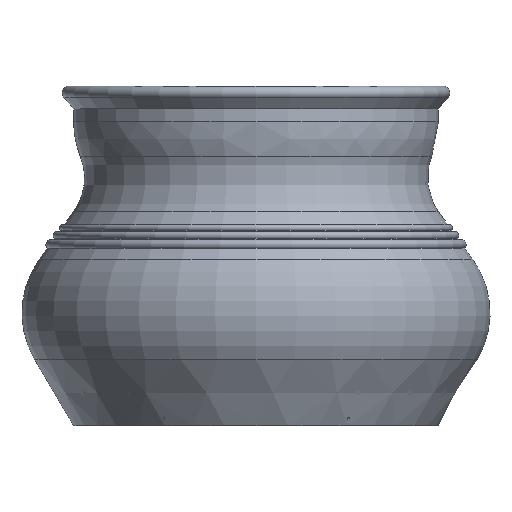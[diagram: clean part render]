
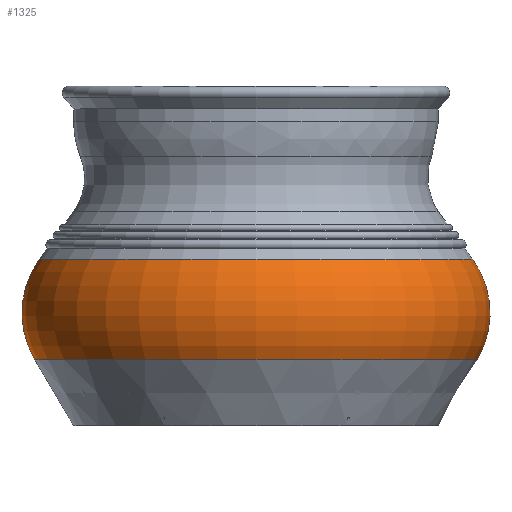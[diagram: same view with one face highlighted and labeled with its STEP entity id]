
A CAD part, front view. The second image highlights one B-rep face of the part: STEP entity #1325.
In plain terms, the highlighted toroidal (fillet/blend) face has major radius 104.833 mm and minor radius 67.527 mm.
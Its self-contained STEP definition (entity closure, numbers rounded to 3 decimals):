
#22=TOROIDAL_SURFACE('',#1503,104.833,67.527);
#166=FACE_OUTER_BOUND('',#284,.T.);
#284=EDGE_LOOP('',(#1208,#1209,#1210,#1211));
#526=CIRCLE('',#1467,163.04);
#549=CIRCLE('',#1504,159.602);
#550=CIRCLE('',#1505,67.527);
#653=VERTEX_POINT('',#2234);
#669=VERTEX_POINT('',#2349);
#818=EDGE_CURVE('',#653,#653,#526,.T.);
#849=EDGE_CURVE('',#669,#669,#549,.T.);
#850=EDGE_CURVE('',#669,#653,#550,.T.);
#1208=ORIENTED_EDGE('',*,*,#849,.F.);
#1209=ORIENTED_EDGE('',*,*,#850,.T.);
#1210=ORIENTED_EDGE('',*,*,#818,.T.);
#1211=ORIENTED_EDGE('',*,*,#850,.F.);
#1325=ADVANCED_FACE('',(#166),#22,.T.);
#1467=AXIS2_PLACEMENT_3D('',#2235,#1835,#1836);
#1503=AXIS2_PLACEMENT_3D('',#2348,#1915,#1916);
#1504=AXIS2_PLACEMENT_3D('',#2350,#1917,#1918);
#1505=AXIS2_PLACEMENT_3D('',#2351,#1919,#1920);
#1835=DIRECTION('center_axis',(0.,0.,1.));
#1836=DIRECTION('ref_axis',(1.,0.,0.));
#1915=DIRECTION('center_axis',(0.,0.,1.));
#1916=DIRECTION('ref_axis',(1.,0.,0.));
#1917=DIRECTION('center_axis',(0.,0.,1.));
#1918=DIRECTION('ref_axis',(1.,0.,0.));
#1919=DIRECTION('center_axis',(0.,-1.,0.));
#1920=DIRECTION('ref_axis',(-1.,0.,0.));
#2234=CARTESIAN_POINT('',(-163.04,0.,48.768));
#2235=CARTESIAN_POINT('Origin',(0.,0.,48.768));
#2348=CARTESIAN_POINT('Origin',(0.,0.,83.));
#2349=CARTESIAN_POINT('',(-159.602,0.,122.5));
#2350=CARTESIAN_POINT('Origin',(0.,0.,122.5));
#2351=CARTESIAN_POINT('Origin',(-104.833,0.,
83.));
